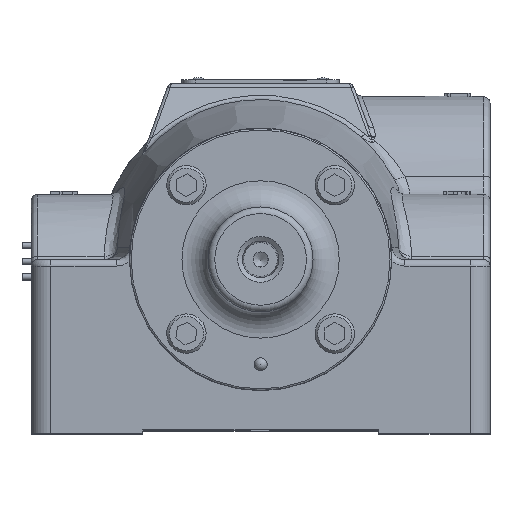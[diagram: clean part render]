
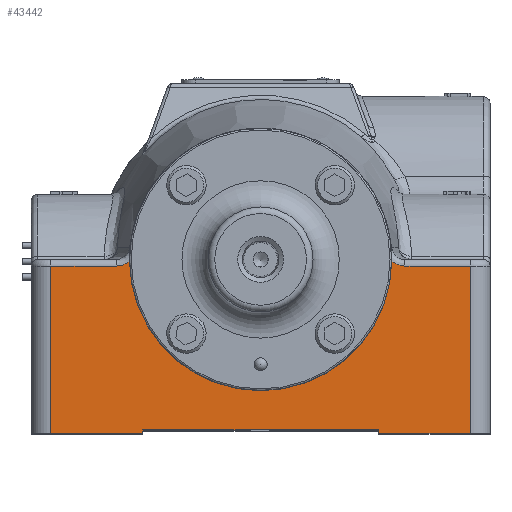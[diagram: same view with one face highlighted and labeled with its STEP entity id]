
A CAD part, top view. The second image highlights one B-rep face of the part: STEP entity #43442.
In plain terms, the highlighted planar face has unit normal (0, 0, 1).
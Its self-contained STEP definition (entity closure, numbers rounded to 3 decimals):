
#1626=B_SPLINE_CURVE_WITH_KNOTS('',3,(#82749,#82750,#82751,#82752,#82753),
 .UNSPECIFIED.,.F.,.F.,(4,1,4),(0.,0.291,0.347),
 .UNSPECIFIED.);
#1634=B_SPLINE_CURVE_WITH_KNOTS('',3,(#82936,#82937,#82938,#82939),
 .UNSPECIFIED.,.F.,.F.,(4,4),(0.356,0.703),
 .UNSPECIFIED.);
#3305=PLANE('',#47808);
#5690=FACE_OUTER_BOUND('',#8464,.T.);
#8464=EDGE_LOOP('',(#36860,#36861,#36862,#36863,#36864,#36865,#36866,#36867,
#36868,#36869,#36870,#36871));
#10788=CIRCLE('',#47679,3.178);
#13064=LINE('',#81372,#15595);
#13130=LINE('',#82515,#15661);
#13135=LINE('',#82528,#15666);
#13138=LINE('',#82532,#15669);
#13139=LINE('',#82534,#15670);
#13151=LINE('',#82586,#15682);
#13157=LINE('',#82643,#15688);
#13159=LINE('',#82817,#15690);
#13167=LINE('',#83063,#15698);
#15595=VECTOR('',#57678,1.);
#15661=VECTOR('',#57930,1.);
#15666=VECTOR('',#57943,1.);
#15669=VECTOR('',#57948,1.);
#15670=VECTOR('',#57951,1.);
#15682=VECTOR('',#57991,1.);
#15688=VECTOR('',#58069,1.);
#15690=VECTOR('',#58077,1.);
#15698=VECTOR('',#58173,1.);
#19103=VERTEX_POINT('',#81356);
#19109=VERTEX_POINT('',#81370);
#19166=VERTEX_POINT('',#82512);
#19167=VERTEX_POINT('',#82514);
#19169=VERTEX_POINT('',#82524);
#19171=VERTEX_POINT('',#82527);
#19188=VERTEX_POINT('',#82585);
#19202=VERTEX_POINT('',#82639);
#19206=VERTEX_POINT('',#82721);
#19211=VERTEX_POINT('',#82810);
#19214=VERTEX_POINT('',#82815);
#19237=VERTEX_POINT('',#82931);
#24667=EDGE_CURVE('',#19103,#19109,#13064,.T.);
#24792=EDGE_CURVE('',#19167,#19166,#13130,.T.);
#24798=EDGE_CURVE('',#19171,#19169,#13135,.T.);
#24801=EDGE_CURVE('',#19109,#19167,#13138,.T.);
#24802=EDGE_CURVE('',#19166,#19171,#13139,.T.);
#24824=EDGE_CURVE('',#19103,#19188,#13151,.T.);
#24853=EDGE_CURVE('',#19188,#19202,#13157,.T.);
#24858=EDGE_CURVE('',#19202,#19206,#1626,.T.);
#24867=EDGE_CURVE('',#19214,#19211,#13159,.T.);
#24904=EDGE_CURVE('',#19237,#19214,#1634,.T.);
#24916=EDGE_CURVE('',#19211,#19169,#13167,.T.);
#24977=EDGE_CURVE('',#19206,#19237,#10788,.T.);
#36860=ORIENTED_EDGE('',*,*,#24798,.T.);
#36861=ORIENTED_EDGE('',*,*,#24916,.F.);
#36862=ORIENTED_EDGE('',*,*,#24867,.F.);
#36863=ORIENTED_EDGE('',*,*,#24904,.F.);
#36864=ORIENTED_EDGE('',*,*,#24977,.F.);
#36865=ORIENTED_EDGE('',*,*,#24858,.F.);
#36866=ORIENTED_EDGE('',*,*,#24853,.F.);
#36867=ORIENTED_EDGE('',*,*,#24824,.F.);
#36868=ORIENTED_EDGE('',*,*,#24667,.T.);
#36869=ORIENTED_EDGE('',*,*,#24801,.T.);
#36870=ORIENTED_EDGE('',*,*,#24792,.T.);
#36871=ORIENTED_EDGE('',*,*,#24802,.T.);
#43442=ADVANCED_FACE('',(#5690),#3305,.T.);
#47679=AXIS2_PLACEMENT_3D('',#83699,#58247,#58248);
#47808=AXIS2_PLACEMENT_3D('',#98454,#58717,#58718);
#57678=DIRECTION('',(1.,0.,0.));
#57930=DIRECTION('',(1.,0.,0.));
#57943=DIRECTION('',(1.,0.,0.));
#57948=DIRECTION('',(0.,1.,0.));
#57951=DIRECTION('',(0.,-1.,0.));
#57991=DIRECTION('',(0.,1.,0.));
#58069=DIRECTION('',(1.,0.,0.));
#58077=DIRECTION('',(1.,0.,0.));
#58173=DIRECTION('',(0.,-1.,0.));
#58247=DIRECTION('center_axis',(0.,0.,1.));
#58248=DIRECTION('ref_axis',(-1.,0.,0.));
#58717=DIRECTION('center_axis',(0.,0.,1.));
#58718=DIRECTION('ref_axis',(1.,0.,0.));
#81356=CARTESIAN_POINT('',(-5.08,-4.207,8.652));
#81370=CARTESIAN_POINT('',(-2.858,-4.207,8.652));
#81372=CARTESIAN_POINT('',(0.,-4.207,8.652));
#82512=CARTESIAN_POINT('',(2.858,-4.128,8.652));
#82514=CARTESIAN_POINT('',(-2.858,-4.128,8.652));
#82515=CARTESIAN_POINT('',(0.,-4.128,8.652));
#82524=CARTESIAN_POINT('',(5.08,-4.207,8.652));
#82527=CARTESIAN_POINT('',(2.858,-4.207,8.652));
#82528=CARTESIAN_POINT('',(0.,-4.207,8.652));
#82532=CARTESIAN_POINT('',(-2.858,-4.247,8.652));
#82534=CARTESIAN_POINT('',(2.858,-4.247,8.652));
#82585=CARTESIAN_POINT('',(-5.08,-0.159,8.652));
#82586=CARTESIAN_POINT('',(-5.08,-3.215,8.652));
#82639=CARTESIAN_POINT('',(-3.497,-0.159,8.652));
#82643=CARTESIAN_POINT('',(0.,-0.159,8.652));
#82721=CARTESIAN_POINT('',(-3.177,-0.037,8.652));
#82749=CARTESIAN_POINT('Ctrl Pts',(-3.497,-0.159,
8.652));
#82750=CARTESIAN_POINT('Ctrl Pts',(-3.4,-0.159,
8.652));
#82751=CARTESIAN_POINT('Ctrl Pts',(-3.283,-0.122,
8.652));
#82752=CARTESIAN_POINT('Ctrl Pts',(-3.192,-0.05,
8.652));
#82753=CARTESIAN_POINT('Ctrl Pts',(-3.178,-0.037,
8.652));
#82810=CARTESIAN_POINT('',(5.08,-0.159,8.652));
#82815=CARTESIAN_POINT('',(3.497,-0.159,8.652));
#82817=CARTESIAN_POINT('',(0.,-0.159,8.652));
#82931=CARTESIAN_POINT('',(3.177,-0.037,8.652));
#82936=CARTESIAN_POINT('Ctrl Pts',(3.178,-0.037,
8.652));
#82937=CARTESIAN_POINT('Ctrl Pts',(3.265,-0.114,
8.652));
#82938=CARTESIAN_POINT('Ctrl Pts',(3.381,-0.159,
8.652));
#82939=CARTESIAN_POINT('Ctrl Pts',(3.497,-0.159,
8.652));
#83063=CARTESIAN_POINT('',(5.08,-3.215,8.652));
#83699=CARTESIAN_POINT('Origin',(0.,0.,8.652));
#98454=CARTESIAN_POINT('Origin',(0.,-4.286,8.652));
